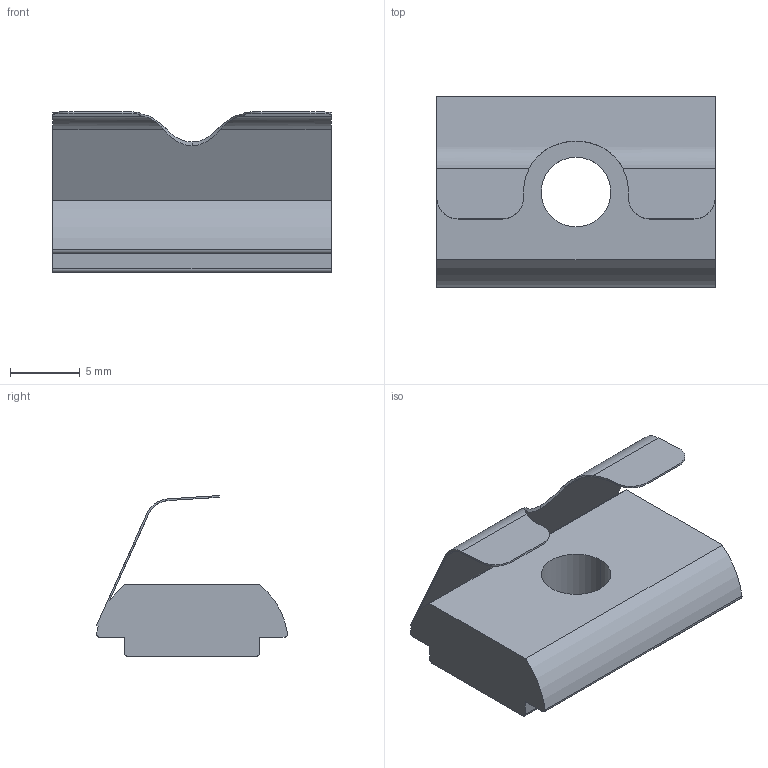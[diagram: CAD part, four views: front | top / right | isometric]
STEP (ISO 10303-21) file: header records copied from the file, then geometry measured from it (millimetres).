
FILE_DESCRIPTION((''),'2;1');
FILE_NAME('205506','2023-02-28T',('jenni.wallner'),(''),'PRO/ENGINEER BY PARAMETRIC TECHNOLOGY CORPORATION, 2012420','PRO/ENGINEER BY PARAMETRIC TECHNOLOGY CORPORATION, 2012420','');
FILE_SCHEMA(('CONFIG_CONTROL_DESIGN'));
Length unit declared in the file: inch
Products named in the file (1): 205506
Bounding box: 20 x 13.73 x 11.56 mm (x, y, z)
Volume: 1131.4 mm3; surface area: 1273.1 mm2
Topology: 1 solids, 1 shells, 38 faces, 109 edges, 73 vertices
Faces by surface type: cylinder 19, plane 19
Entity records: 1327 total; most frequent: CARTESIAN_POINT 263, ORIENTED_EDGE 218, DIRECTION 212, EDGE_CURVE 109, AXIS2_PLACEMENT_3D 73, VERTEX_POINT 73, VECTOR 66, LINE 66
